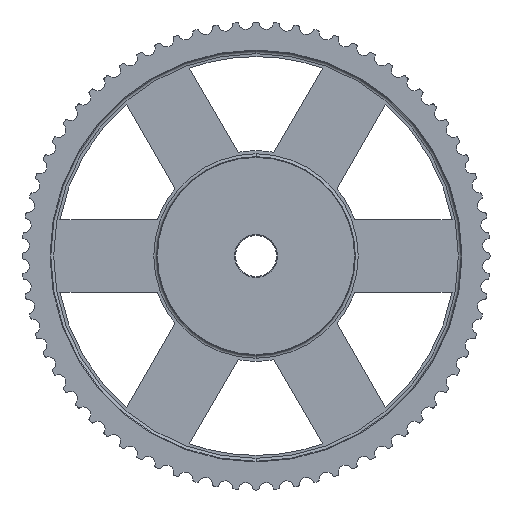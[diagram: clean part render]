
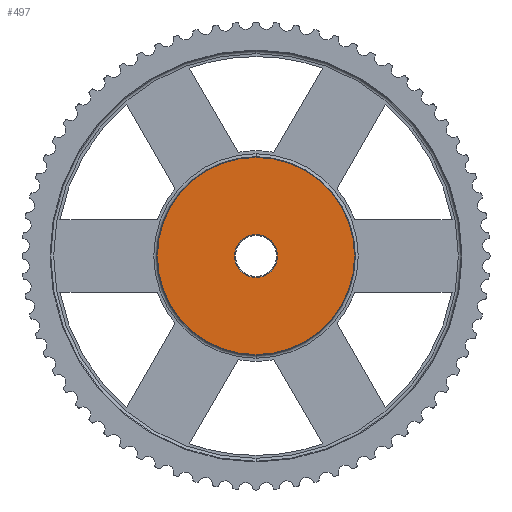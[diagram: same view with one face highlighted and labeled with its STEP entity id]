
A CAD part, left-side view. The second image highlights one B-rep face of the part: STEP entity #497.
In plain terms, the highlighted planar face has unit normal (-1, 0, 0).
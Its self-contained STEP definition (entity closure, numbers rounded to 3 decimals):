
#497=ADVANCED_FACE('',(#1360,#1361),#1362,.T.);
#1360=FACE_BOUND('',#2226,.T.);
#1361=FACE_OUTER_BOUND('',#2227,.T.);
#1362=PLANE('',#2228);
#2226=EDGE_LOOP('',(#5974,#5975));
#2227=EDGE_LOOP('',(#5976,#5977));
#2228=AXIS2_PLACEMENT_3D('',#5978,#5979,#5980);
#5974=ORIENTED_EDGE('',*,*,#6059,.T.);
#5975=ORIENTED_EDGE('',*,*,#6065,.T.);
#5976=ORIENTED_EDGE('',*,*,#7227,.T.);
#5977=ORIENTED_EDGE('',*,*,#5998,.T.);
#5978=CARTESIAN_POINT('',(0.0,0.0,0.0));
#5979=DIRECTION('',(-1.0,0.0,0.0));
#5980=DIRECTION('',(0.0,0.0,1.0));
#5998=EDGE_CURVE('',#7250,#7247,#7251,.T.);
#6059=EDGE_CURVE('',#7359,#7361,#7363,.T.);
#6065=EDGE_CURVE('',#7361,#7359,#7371,.T.);
#7227=EDGE_CURVE('',#7247,#7250,#9293,.T.);
#7247=VERTEX_POINT('',#9317);
#7250=VERTEX_POINT('',#9321);
#7251=CIRCLE('',#9322,67.0);
#7359=VERTEX_POINT('',#9451);
#7361=VERTEX_POINT('',#9454);
#7363=CIRCLE('',#9457,14.5);
#7371=CIRCLE('',#9467,14.5);
#9293=CIRCLE('',#11793,67.0);
#9317=CARTESIAN_POINT('',(0.0,67.0,0.0));
#9321=CARTESIAN_POINT('',(0.0,-67.0,0.));
#9322=AXIS2_PLACEMENT_3D('',#11816,#11817,#11818);
#9451=CARTESIAN_POINT('',(0.0,14.5,0.0));
#9454=CARTESIAN_POINT('',(0.0,-14.5,0.));
#9457=AXIS2_PLACEMENT_3D('',#11953,#11954,#11955);
#9467=AXIS2_PLACEMENT_3D('',#11967,#11968,#11969);
#11793=AXIS2_PLACEMENT_3D('',#14645,#14646,#14647);
#11816=CARTESIAN_POINT('',(0.0,0.0,0.));
#11817=DIRECTION('',(-1.0,0.0,0.0));
#11818=DIRECTION('',(0.0,1.0,0.0));
#11953=CARTESIAN_POINT('',(0.0,0.0,0.0));
#11954=DIRECTION('',(1.0,0.0,0.0));
#11955=DIRECTION('',(0.0,1.0,0.0));
#11967=CARTESIAN_POINT('',(0.0,0.0,0.0));
#11968=DIRECTION('',(1.0,0.0,0.0));
#11969=DIRECTION('',(0.0,1.0,0.0));
#14645=CARTESIAN_POINT('',(0.0,0.0,0.));
#14646=DIRECTION('',(-1.0,0.0,0.0));
#14647=DIRECTION('',(0.0,1.0,0.0));
